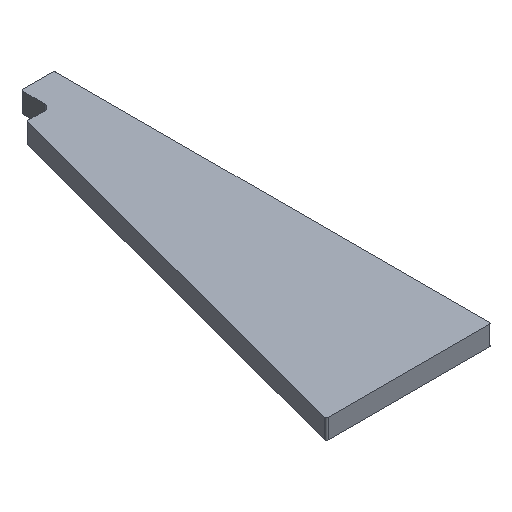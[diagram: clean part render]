
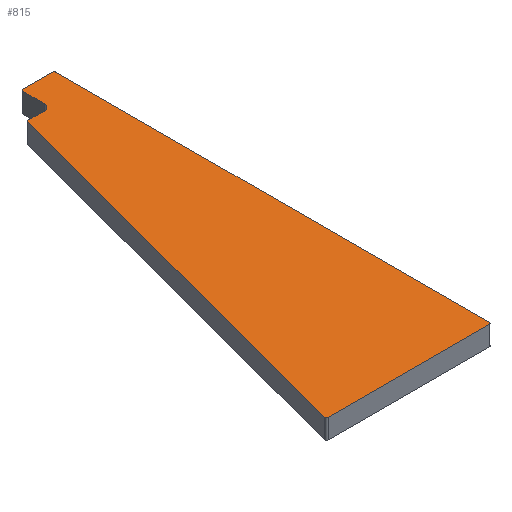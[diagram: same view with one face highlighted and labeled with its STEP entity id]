
A CAD part, isometric view. The second image highlights one B-rep face of the part: STEP entity #815.
In plain terms, the highlighted planar face has unit normal (0, 0, 1).
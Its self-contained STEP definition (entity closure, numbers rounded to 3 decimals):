
#395=CIRCLE('',#779,12.5);
#397=CIRCLE('',#782,3.);
#398=CIRCLE('',#783,3.);
#399=CIRCLE('',#784,3.);
#400=CIRCLE('',#785,3.);
#401=CIRCLE('',#786,3.);
#421=ORIENTED_EDGE('',*,*,#560,.F.);
#422=ORIENTED_EDGE('',*,*,#564,.F.);
#423=ORIENTED_EDGE('',*,*,#565,.F.);
#424=ORIENTED_EDGE('',*,*,#566,.F.);
#425=ORIENTED_EDGE('',*,*,#567,.T.);
#426=ORIENTED_EDGE('',*,*,#568,.F.);
#427=ORIENTED_EDGE('',*,*,#569,.T.);
#428=ORIENTED_EDGE('',*,*,#570,.F.);
#429=ORIENTED_EDGE('',*,*,#571,.T.);
#430=ORIENTED_EDGE('',*,*,#572,.F.);
#431=ORIENTED_EDGE('',*,*,#573,.F.);
#432=ORIENTED_EDGE('',*,*,#561,.F.);
#488=VECTOR('',#626,1.);
#490=VECTOR('',#638,1.);
#491=VECTOR('',#641,1.);
#492=VECTOR('',#644,1.);
#493=VECTOR('',#647,1.);
#494=VECTOR('',#650,1.);
#512=LINE('',#709,#488);
#514=LINE('',#720,#490);
#515=LINE('',#724,#491);
#516=LINE('',#728,#492);
#517=LINE('',#732,#493);
#518=LINE('',#735,#494);
#534=VERTEX_POINT('',#703);
#536=VERTEX_POINT('',#707);
#537=VERTEX_POINT('',#711);
#539=VERTEX_POINT('',#717);
#540=VERTEX_POINT('',#719);
#541=VERTEX_POINT('',#721);
#542=VERTEX_POINT('',#723);
#543=VERTEX_POINT('',#725);
#544=VERTEX_POINT('',#727);
#545=VERTEX_POINT('',#729);
#546=VERTEX_POINT('',#731);
#547=VERTEX_POINT('',#733);
#560=EDGE_CURVE('',#536,#534,#512,.T.);
#561=EDGE_CURVE('',#534,#537,#395,.T.);
#564=EDGE_CURVE('',#539,#536,#397,.T.);
#565=EDGE_CURVE('',#540,#539,#514,.T.);
#566=EDGE_CURVE('',#541,#540,#398,.T.);
#567=EDGE_CURVE('',#541,#542,#515,.T.);
#568=EDGE_CURVE('',#543,#542,#399,.T.);
#569=EDGE_CURVE('',#543,#544,#516,.T.);
#570=EDGE_CURVE('',#545,#544,#400,.T.);
#571=EDGE_CURVE('',#545,#546,#517,.T.);
#572=EDGE_CURVE('',#547,#546,#401,.T.);
#573=EDGE_CURVE('',#537,#547,#518,.T.);
#595=EDGE_LOOP('',(#421,#422,#423,#424,#425,#426,#427,#428,#429,#430,#431,
#432));
#609=FACE_BOUND('',#595,.T.);
#626=DIRECTION('',(34.133,0.,0.));
#629=DIRECTION('',(0.,0.,1.));
#630=DIRECTION('',(12.5,0.,0.));
#634=DIRECTION('',(0.,0.,1.));
#635=DIRECTION('',(0.,-1.,0.));
#636=DIRECTION('',(0.,0.,-1.));
#637=DIRECTION('',(0.,-3.,0.));
#638=DIRECTION('',(217.71,824.,0.));
#639=DIRECTION('',(0.,0.,-1.));
#640=DIRECTION('',(0.,-3.,0.));
#641=DIRECTION('',(328.843,0.,0.));
#642=DIRECTION('',(0.,0.,-1.));
#643=DIRECTION('',(0.,-3.,0.));
#644=DIRECTION('',(0.,884.,0.));
#645=DIRECTION('',(0.,0.,-1.));
#646=DIRECTION('',(0.,-3.,0.));
#647=DIRECTION('',(-61.5,0.,0.));
#648=DIRECTION('',(0.,0.,-1.));
#649=DIRECTION('',(0.,-3.,0.));
#650=DIRECTION('',(0.,44.5,0.));
#703=CARTESIAN_POINT('',(5882.004,13781.36,40.));
#707=CARTESIAN_POINT('',(5847.871,13781.36,40.));
#709=CARTESIAN_POINT('',(5847.871,13781.36,40.));
#711=CARTESIAN_POINT('',(5894.504,13793.86,40.));
#712=CARTESIAN_POINT('',(5882.004,13793.86,40.));
#716=CARTESIAN_POINT('',(0.,0.,40.));
#717=CARTESIAN_POINT('',(5844.97,13779.126,40.));
#718=CARTESIAN_POINT('',(5847.871,13778.36,40.));
#719=CARTESIAN_POINT('',(5627.26,12955.126,40.));
#720=CARTESIAN_POINT('',(5627.26,12955.126,40.));
#721=CARTESIAN_POINT('',(5630.16,12951.36,40.));
#722=CARTESIAN_POINT('',(5630.16,12954.36,40.));
#723=CARTESIAN_POINT('',(5959.004,12951.36,40.));
#724=CARTESIAN_POINT('',(5630.16,12951.36,40.));
#725=CARTESIAN_POINT('',(5962.004,12954.36,40.));
#726=CARTESIAN_POINT('',(5959.004,12954.36,40.));
#727=CARTESIAN_POINT('',(5962.004,13838.36,40.));
#728=CARTESIAN_POINT('',(5962.004,12954.36,40.));
#729=CARTESIAN_POINT('',(5959.004,13841.36,40.));
#730=CARTESIAN_POINT('',(5959.004,13838.36,40.));
#731=CARTESIAN_POINT('',(5897.504,13841.36,40.));
#732=CARTESIAN_POINT('',(5959.004,13841.36,40.));
#733=CARTESIAN_POINT('',(5894.504,13838.36,40.));
#734=CARTESIAN_POINT('',(5897.504,13838.36,40.));
#735=CARTESIAN_POINT('',(5894.504,13793.86,40.));
#779=AXIS2_PLACEMENT_3D('',#712,#629,#630);
#781=AXIS2_PLACEMENT_3D('',#716,#634,#635);
#782=AXIS2_PLACEMENT_3D('',#718,#636,#637);
#783=AXIS2_PLACEMENT_3D('',#722,#639,#640);
#784=AXIS2_PLACEMENT_3D('',#726,#642,#643);
#785=AXIS2_PLACEMENT_3D('',#730,#645,#646);
#786=AXIS2_PLACEMENT_3D('',#734,#648,#649);
#806=PLANE('',#781);
#815=ADVANCED_FACE('',(#609),#806,.T.);
